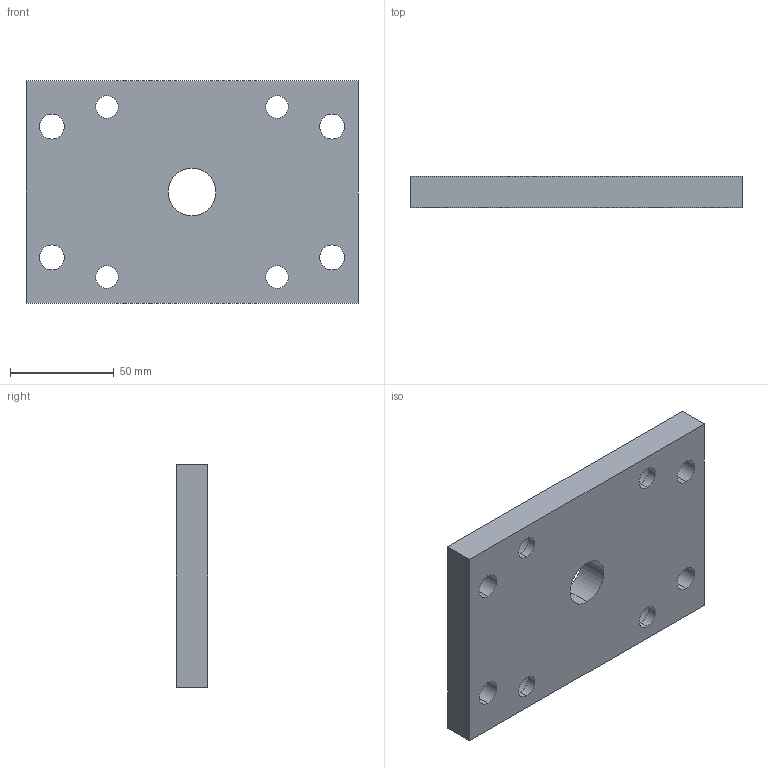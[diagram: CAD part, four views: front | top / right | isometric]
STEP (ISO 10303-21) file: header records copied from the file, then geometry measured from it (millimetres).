
FILE_DESCRIPTION (( 'STEP AP214' ), '1' );
FILE_NAME ('FLU-080.STEP', '2013-10-02T11:49:54', ( '' ), ( '' ), 'SwSTEP 2.0', 'SolidWorks 2009', '' );
FILE_SCHEMA (( 'AUTOMOTIVE_DESIGN' ));
Length unit declared in the file: millimetre
Products named in the file (1): FLU-080
Bounding box: 160 x 15 x 107 mm (x, y, z)
Volume: 231320 mm3; surface area: 46105.7 mm2
Topology: 1 solids, 1 shells, 36 faces, 90 edges, 60 vertices
Faces by surface type: cylinder 26, plane 10
Entity records: 1176 total; most frequent: DIRECTION 216, CARTESIAN_POINT 187, ORIENTED_EDGE 180, EDGE_CURVE 90, AXIS2_PLACEMENT_3D 89, VERTEX_POINT 60, EDGE_LOOP 58, CIRCLE 52
